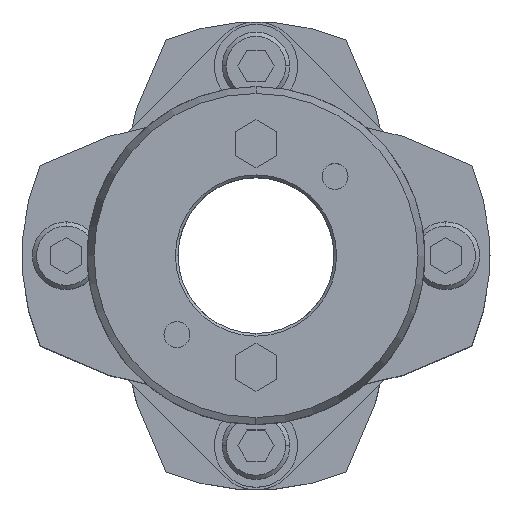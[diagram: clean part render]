
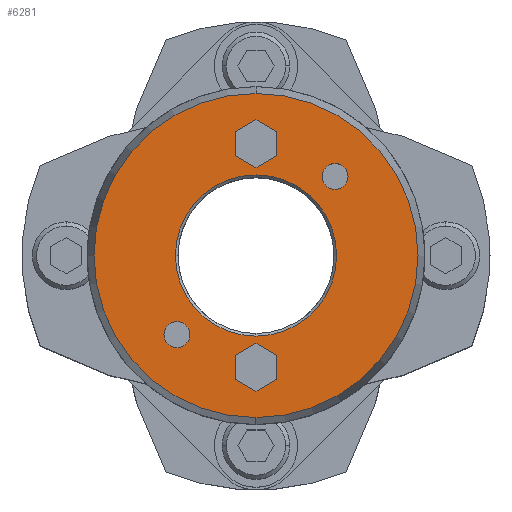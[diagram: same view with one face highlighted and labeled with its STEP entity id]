
A CAD part, top view. The second image highlights one B-rep face of the part: STEP entity #6281.
In plain terms, the highlighted planar face has unit normal (0, 0, 1).
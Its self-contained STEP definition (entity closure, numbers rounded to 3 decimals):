
#1677=CARTESIAN_POINT('',(0.,15.5,52.0));
#1678=VERTEX_POINT('',#1677);
#1694=CARTESIAN_POINT('',(0.,-15.5,52.0));
#1695=VERTEX_POINT('',#1694);
#1702=CARTESIAN_POINT('',(0.,0.,52.0));
#1703=DIRECTION('',(0.0,0.0,1.0));
#1704=DIRECTION('',(0.0,1.0,0.0));
#1705=AXIS2_PLACEMENT_3D('',#1702,#1703,#1704);
#1706=CIRCLE('',#1705,15.5);
#1707=EDGE_CURVE('',#1695,#1678,#1706,.T.);
#1823=CARTESIAN_POINT('',(0.,-31.16,52.0));
#1824=VERTEX_POINT('',#1823);
#1833=CARTESIAN_POINT('',(0.,31.16,52.0));
#1834=VERTEX_POINT('',#1833);
#1835=CARTESIAN_POINT('',(0.,0.,52.0));
#1836=DIRECTION('',(0.0,0.0,-1.0));
#1837=DIRECTION('',(0.0,-1.0,0.0));
#1838=AXIS2_PLACEMENT_3D('',#1835,#1836,#1837);
#1839=CIRCLE('',#1838,31.16);
#1840=EDGE_CURVE('',#1824,#1834,#1839,.T.);
#2157=CARTESIAN_POINT('',(15.203,17.703,52.0));
#2158=VERTEX_POINT('',#2157);
#2174=CARTESIAN_POINT('',(15.203,12.703,52.0));
#2175=VERTEX_POINT('',#2174);
#2182=CARTESIAN_POINT('',(15.203,15.203,52.0));
#2183=DIRECTION('',(0.0,0.0,-1.0));
#2184=DIRECTION('',(0.0,1.0,0.0));
#2185=AXIS2_PLACEMENT_3D('',#2182,#2183,#2184);
#2186=CIRCLE('',#2185,2.5);
#2187=EDGE_CURVE('',#2158,#2175,#2186,.T.);
#2199=CARTESIAN_POINT('',(-15.203,-12.703,52.0));
#2200=VERTEX_POINT('',#2199);
#2216=CARTESIAN_POINT('',(-15.203,-17.703,52.0));
#2217=VERTEX_POINT('',#2216);
#2224=CARTESIAN_POINT('',(-15.203,-15.203,52.0));
#2225=DIRECTION('',(0.0,0.0,-1.0));
#2226=DIRECTION('',(0.0,1.0,0.0));
#2227=AXIS2_PLACEMENT_3D('',#2224,#2225,#2226);
#2228=CIRCLE('',#2227,2.5);
#2229=EDGE_CURVE('',#2200,#2217,#2228,.T.);
#4887=CARTESIAN_POINT('',(0.,-16.881,52.0));
#4888=VERTEX_POINT('',#4887);
#4895=CARTESIAN_POINT('',(-4.,-19.191,52.0));
#4896=VERTEX_POINT('',#4895);
#4897=CARTESIAN_POINT('',(-4.,-19.191,52.0));
#4898=DIRECTION('',(0.866,0.5,0.0));
#4899=VECTOR('',#4898,4.619);
#4900=LINE('',#4897,#4899);
#4901=EDGE_CURVE('',#4896,#4888,#4900,.T.);
#4925=CARTESIAN_POINT('',(4.,-19.191,52.0));
#4926=VERTEX_POINT('',#4925);
#4933=CARTESIAN_POINT('',(0.,-16.881,52.0));
#4934=DIRECTION('',(0.866,-0.5,0.0));
#4935=VECTOR('',#4934,4.619);
#4936=LINE('',#4933,#4935);
#4937=EDGE_CURVE('',#4888,#4926,#4936,.T.);
#4956=CARTESIAN_POINT('',(4.,-23.809,52.0));
#4957=VERTEX_POINT('',#4956);
#4964=CARTESIAN_POINT('',(4.,-19.191,52.0));
#4965=DIRECTION('',(0.0,-1.0,0.0));
#4966=VECTOR('',#4965,4.619);
#4967=LINE('',#4964,#4966);
#4968=EDGE_CURVE('',#4926,#4957,#4967,.T.);
#4987=CARTESIAN_POINT('',(0.,-26.119,52.0));
#4988=VERTEX_POINT('',#4987);
#4995=CARTESIAN_POINT('',(4.,-23.809,52.0));
#4996=DIRECTION('',(-0.866,-0.5,0.0));
#4997=VECTOR('',#4996,4.619);
#4998=LINE('',#4995,#4997);
#4999=EDGE_CURVE('',#4957,#4988,#4998,.T.);
#5018=CARTESIAN_POINT('',(-4.,-23.809,52.0));
#5019=VERTEX_POINT('',#5018);
#5026=CARTESIAN_POINT('',(0.,-26.119,52.0));
#5027=DIRECTION('',(-0.866,0.5,0.0));
#5028=VECTOR('',#5027,4.619);
#5029=LINE('',#5026,#5028);
#5030=EDGE_CURVE('',#4988,#5019,#5029,.T.);
#5048=CARTESIAN_POINT('',(-4.,-23.809,52.0));
#5049=DIRECTION('',(0.0,1.0,0.0));
#5050=VECTOR('',#5049,4.619);
#5051=LINE('',#5048,#5050);
#5052=EDGE_CURVE('',#5019,#4896,#5051,.T.);
#5087=CARTESIAN_POINT('',(0.,26.119,52.0));
#5088=VERTEX_POINT('',#5087);
#5095=CARTESIAN_POINT('',(-4.,23.809,52.0));
#5096=VERTEX_POINT('',#5095);
#5097=CARTESIAN_POINT('',(-4.,23.809,52.0));
#5098=DIRECTION('',(0.866,0.5,0.0));
#5099=VECTOR('',#5098,4.619);
#5100=LINE('',#5097,#5099);
#5101=EDGE_CURVE('',#5096,#5088,#5100,.T.);
#5125=CARTESIAN_POINT('',(4.,23.809,52.0));
#5126=VERTEX_POINT('',#5125);
#5133=CARTESIAN_POINT('',(0.,26.119,52.0));
#5134=DIRECTION('',(0.866,-0.5,0.0));
#5135=VECTOR('',#5134,4.619);
#5136=LINE('',#5133,#5135);
#5137=EDGE_CURVE('',#5088,#5126,#5136,.T.);
#5156=CARTESIAN_POINT('',(4.,19.191,52.0));
#5157=VERTEX_POINT('',#5156);
#5164=CARTESIAN_POINT('',(4.,23.809,52.0));
#5165=DIRECTION('',(0.0,-1.0,0.0));
#5166=VECTOR('',#5165,4.619);
#5167=LINE('',#5164,#5166);
#5168=EDGE_CURVE('',#5126,#5157,#5167,.T.);
#5187=CARTESIAN_POINT('',(0.,16.881,52.0));
#5188=VERTEX_POINT('',#5187);
#5195=CARTESIAN_POINT('',(4.,19.191,52.0));
#5196=DIRECTION('',(-0.866,-0.5,0.0));
#5197=VECTOR('',#5196,4.619);
#5198=LINE('',#5195,#5197);
#5199=EDGE_CURVE('',#5157,#5188,#5198,.T.);
#5218=CARTESIAN_POINT('',(-4.,19.191,52.0));
#5219=VERTEX_POINT('',#5218);
#5226=CARTESIAN_POINT('',(0.,16.881,52.0));
#5227=DIRECTION('',(-0.866,0.5,0.0));
#5228=VECTOR('',#5227,4.619);
#5229=LINE('',#5226,#5228);
#5230=EDGE_CURVE('',#5188,#5219,#5229,.T.);
#5248=CARTESIAN_POINT('',(-4.,19.191,52.0));
#5249=DIRECTION('',(0.0,1.0,0.0));
#5250=VECTOR('',#5249,4.619);
#5251=LINE('',#5248,#5250);
#5252=EDGE_CURVE('',#5219,#5096,#5251,.T.);
#5278=CARTESIAN_POINT('',(-15.203,-15.203,52.0));
#5279=DIRECTION('',(0.0,0.0,-1.0));
#5280=DIRECTION('',(0.0,1.0,0.0));
#5281=AXIS2_PLACEMENT_3D('',#5278,#5279,#5280);
#5282=CIRCLE('',#5281,2.5);
#5283=EDGE_CURVE('',#2217,#2200,#5282,.T.);
#5312=CARTESIAN_POINT('',(15.203,15.203,52.0));
#5313=DIRECTION('',(0.0,0.0,-1.0));
#5314=DIRECTION('',(0.0,1.0,0.0));
#5315=AXIS2_PLACEMENT_3D('',#5312,#5313,#5314);
#5316=CIRCLE('',#5315,2.5);
#5317=EDGE_CURVE('',#2175,#2158,#5316,.T.);
#6228=CARTESIAN_POINT('',(0.,0.,52.0));
#6229=DIRECTION('',(0.0,0.0,-1.0));
#6230=DIRECTION('',(0.0,-1.0,0.0));
#6231=AXIS2_PLACEMENT_3D('',#6228,#6229,#6230);
#6232=CIRCLE('',#6231,31.16);
#6233=EDGE_CURVE('',#1834,#1824,#6232,.T.);
#6238=CARTESIAN_POINT('',(0.,2.682,52.0));
#6239=DIRECTION('',(0.0,0.0,1.0));
#6240=DIRECTION('',(0.0,1.0,0.0));
#6241=AXIS2_PLACEMENT_3D('',#6238,#6239,#6240);
#6242=PLANE('',#6241);
#6243=ORIENTED_EDGE('',*,*,#6233,.F.);
#6244=ORIENTED_EDGE('',*,*,#1840,.F.);
#6245=EDGE_LOOP('',(#6243,#6244));
#6246=FACE_OUTER_BOUND('',#6245,.T.);
#6247=ORIENTED_EDGE('',*,*,#4901,.T.);
#6248=ORIENTED_EDGE('',*,*,#4937,.T.);
#6249=ORIENTED_EDGE('',*,*,#4968,.T.);
#6250=ORIENTED_EDGE('',*,*,#4999,.T.);
#6251=ORIENTED_EDGE('',*,*,#5030,.T.);
#6252=ORIENTED_EDGE('',*,*,#5052,.T.);
#6253=EDGE_LOOP('',(#6247,#6248,#6249,#6250,#6251,#6252));
#6254=FACE_BOUND('',#6253,.T.);
#6255=ORIENTED_EDGE('',*,*,#5101,.T.);
#6256=ORIENTED_EDGE('',*,*,#5137,.T.);
#6257=ORIENTED_EDGE('',*,*,#5168,.T.);
#6258=ORIENTED_EDGE('',*,*,#5199,.T.);
#6259=ORIENTED_EDGE('',*,*,#5230,.T.);
#6260=ORIENTED_EDGE('',*,*,#5252,.T.);
#6261=EDGE_LOOP('',(#6255,#6256,#6257,#6258,#6259,#6260));
#6262=FACE_BOUND('',#6261,.T.);
#6263=ORIENTED_EDGE('',*,*,#2229,.T.);
#6264=ORIENTED_EDGE('',*,*,#5283,.T.);
#6265=EDGE_LOOP('',(#6263,#6264));
#6266=FACE_BOUND('',#6265,.T.);
#6267=ORIENTED_EDGE('',*,*,#2187,.T.);
#6268=ORIENTED_EDGE('',*,*,#5317,.T.);
#6269=EDGE_LOOP('',(#6267,#6268));
#6270=FACE_BOUND('',#6269,.T.);
#6271=ORIENTED_EDGE('',*,*,#1707,.F.);
#6272=CARTESIAN_POINT('',(0.,0.,52.0));
#6273=DIRECTION('',(0.0,0.0,1.0));
#6274=DIRECTION('',(0.0,1.0,0.0));
#6275=AXIS2_PLACEMENT_3D('',#6272,#6273,#6274);
#6276=CIRCLE('',#6275,15.5);
#6277=EDGE_CURVE('',#1678,#1695,#6276,.T.);
#6278=ORIENTED_EDGE('',*,*,#6277,.F.);
#6279=EDGE_LOOP('',(#6271,#6278));
#6280=FACE_BOUND('',#6279,.T.);
#6281=ADVANCED_FACE('',(#6246,#6254,#6262,#6266,#6270,#6280),#6242,.T.);
